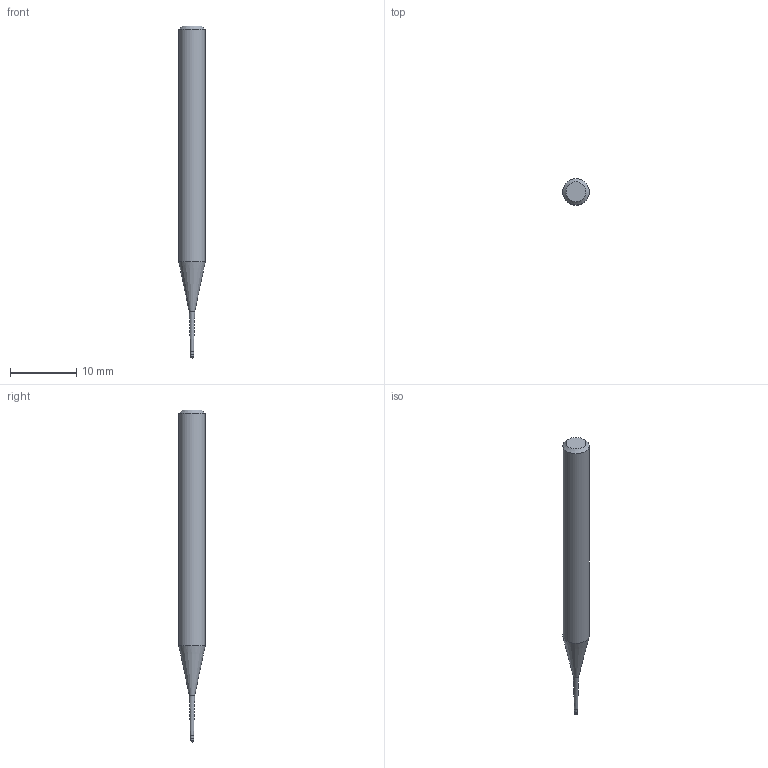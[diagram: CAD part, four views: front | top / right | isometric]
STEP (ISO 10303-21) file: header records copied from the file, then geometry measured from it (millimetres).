
FILE_DESCRIPTION((''),'2;1');
FILE_NAME('C:\Users\nsx150\AppData\Local\Temp\Mastercam 2021\SNAKH10GOD\TEMP.step','2021-10-21T13:31:15',(''),(''),'STEP Write','Mastercam 2021 ... CNC Software, Inc.','');
FILE_SCHEMA(('AUTOMOTIVE_DESIGN'));
Length unit declared in the file: millimetre
Products named in the file (1): None
Bounding box: 4 x 4 x 50 mm (x, y, z)
Volume: 485.9 mm3; surface area: 526.7 mm2
Topology: 2 solids, 2 shells, 10 faces, 16 edges, 9 vertices
Faces by surface type: plane 3, cylinder 3, cone 3, sphere 1
Full cylindrical faces by diameter (mm): 0.485 x1, 0.5 x1, 4 x1
Entity records: 232 total; most frequent: DIRECTION 40, CARTESIAN_POINT 28, AXIS2_PLACEMENT_3D 20, ORIENTED_EDGE 16, EDGE_LOOP 16, STYLED_ITEM 13, ADVANCED_FACE 10, FACE_BOUND 9
